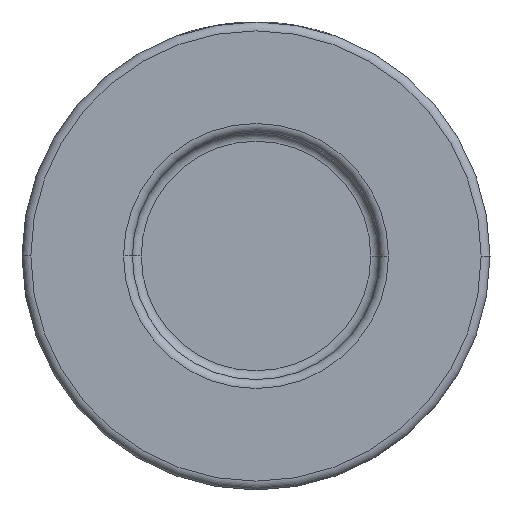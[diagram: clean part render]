
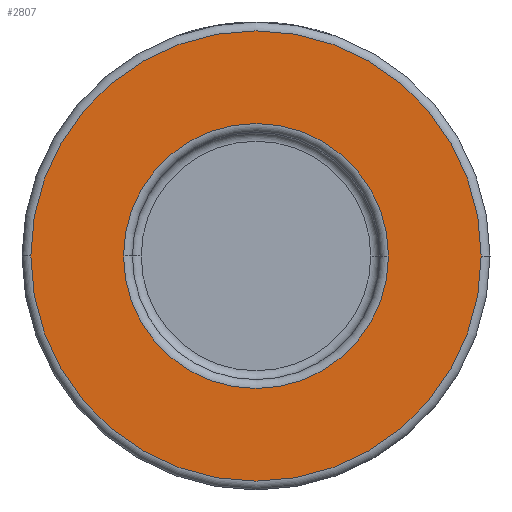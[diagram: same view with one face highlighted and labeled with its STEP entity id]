
A CAD part, front view. The second image highlights one B-rep face of the part: STEP entity #2807.
In plain terms, the highlighted planar face has unit normal (0, -1, 0).
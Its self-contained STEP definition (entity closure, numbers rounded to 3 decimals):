
#56 = CIRCLE ( 'NONE', #3200, 25.5 ) ;
#143 = ORIENTED_EDGE ( 'NONE', *, *, #1694, .T. ) ;
#266 = AXIS2_PLACEMENT_3D ( 'NONE', #3524, #1113, #3500 ) ;
#345 = CARTESIAN_POINT ( 'NONE',  ( 0., -16., 0. ) ) ;
#838 = PLANE ( 'NONE',  #2148 ) ;
#839 = CIRCLE ( 'NONE', #266, 25.5 ) ;
#854 = VERTEX_POINT ( 'NONE', #3563 ) ;
#908 = FACE_OUTER_BOUND ( 'NONE', #3389, .T. ) ;
#1024 = CARTESIAN_POINT ( 'NONE',  ( 0., -16., 0. ) ) ;
#1113 = DIRECTION ( 'NONE',  ( 0., -1., 0. ) ) ;
#1381 = DIRECTION ( 'NONE',  ( 0., -1., 0. ) ) ;
#1561 = EDGE_CURVE ( 'NONE', #3561, #3233, #56, .T. ) ;
#1562 = FACE_BOUND ( 'NONE', #4412, .T. ) ;
#1619 = VERTEX_POINT ( 'NONE', #3978 ) ;
#1694 = EDGE_CURVE ( 'NONE', #854, #1619, #3276, .T. ) ;
#1765 = ORIENTED_EDGE ( 'NONE', *, *, #3111, .T. ) ;
#1869 = CIRCLE ( 'NONE', #3227, 15. ) ;
#1936 = EDGE_CURVE ( 'NONE', #3233, #3561, #839, .T. ) ;
#2119 = CARTESIAN_POINT ( 'NONE',  ( 25.5, -16., 0. ) ) ;
#2148 = AXIS2_PLACEMENT_3D ( 'NONE', #3652, #2895, #2631 ) ;
#2150 = ORIENTED_EDGE ( 'NONE', *, *, #1936, .T. ) ;
#2483 = AXIS2_PLACEMENT_3D ( 'NONE', #3799, #3081, #4405 ) ;
#2631 = DIRECTION ( 'NONE',  ( 1., 0., 0. ) ) ;
#2655 = DIRECTION ( 'NONE',  ( 1., 0., 0. ) ) ;
#2807 = ADVANCED_FACE ( 'NONE', ( #1562, #908 ), #838, .T. ) ;
#2895 = DIRECTION ( 'NONE',  ( 0., -1., 0. ) ) ;
#3037 = DIRECTION ( 'NONE',  ( 1., 0., 0. ) ) ;
#3081 = DIRECTION ( 'NONE',  ( 0., 1., 0. ) ) ;
#3111 = EDGE_CURVE ( 'NONE', #1619, #854, #1869, .T. ) ;
#3200 = AXIS2_PLACEMENT_3D ( 'NONE', #345, #1381, #2655 ) ;
#3227 = AXIS2_PLACEMENT_3D ( 'NONE', #1024, #4379, #3037 ) ;
#3233 = VERTEX_POINT ( 'NONE', #2119 ) ;
#3276 = CIRCLE ( 'NONE', #2483, 15. ) ;
#3389 = EDGE_LOOP ( 'NONE', ( #2150, #4345 ) ) ;
#3500 = DIRECTION ( 'NONE',  ( 1., 0., 0. ) ) ;
#3524 = CARTESIAN_POINT ( 'NONE',  ( 0., -16., 0. ) ) ;
#3561 = VERTEX_POINT ( 'NONE', #3763 ) ;
#3563 = CARTESIAN_POINT ( 'NONE',  ( 15., -16., 0. ) ) ;
#3652 = CARTESIAN_POINT ( 'NONE',  ( 26.5, -16., 0. ) ) ;
#3763 = CARTESIAN_POINT ( 'NONE',  ( -25.5, -16., 0. ) ) ;
#3799 = CARTESIAN_POINT ( 'NONE',  ( 0., -16., 0. ) ) ;
#3978 = CARTESIAN_POINT ( 'NONE',  ( -15., -16., 0. ) ) ;
#4345 = ORIENTED_EDGE ( 'NONE', *, *, #1561, .T. ) ;
#4379 = DIRECTION ( 'NONE',  ( 0., 1., 0. ) ) ;
#4405 = DIRECTION ( 'NONE',  ( 1., 0., 0. ) ) ;
#4412 = EDGE_LOOP ( 'NONE', ( #143, #1765 ) ) ;
